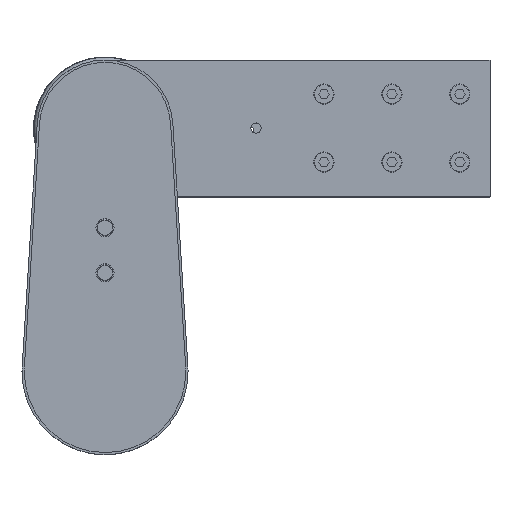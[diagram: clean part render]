
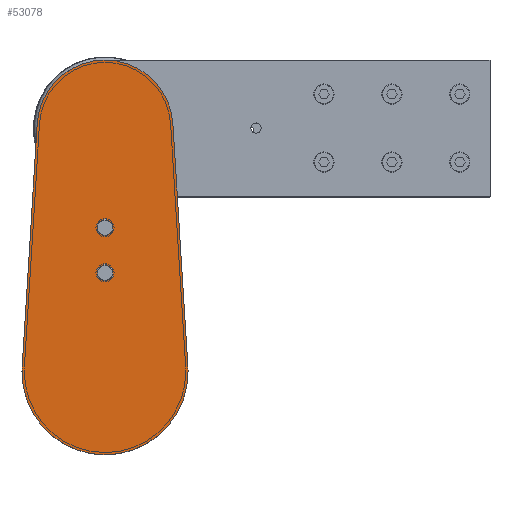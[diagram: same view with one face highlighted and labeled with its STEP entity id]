
A CAD part, top view. The second image highlights one B-rep face of the part: STEP entity #53078.
In plain terms, the highlighted planar face has unit normal (0, 0, 1) as drawn and (0, 0, -1) by its records, which use the part's own axes.
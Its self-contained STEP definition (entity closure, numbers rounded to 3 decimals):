
#3362 = VERTEX_POINT ( 'NONE', #16462 ) ;
#10137 = CARTESIAN_POINT ( 'NONE',  ( -44.914, 164.286, 0. ) ) ;
#10144 = CARTESIAN_POINT ( 'NONE',  ( -55., 0., 0. ) ) ;
#10145 = CARTESIAN_POINT ( 'NONE',  ( 44.914, 164.286, 0. ) ) ;
#10146 = CARTESIAN_POINT ( 'NONE',  ( -54.894, 3.406, 0. ) ) ;
#10191 = CARTESIAN_POINT ( 'NONE',  ( 55., 0., 0. ) ) ;
#10275 = CARTESIAN_POINT ( 'NONE',  ( 54.894, 3.406, 0. ) ) ;
#10293 = CARTESIAN_POINT ( 'NONE',  ( -3.5, 65.5, 0. ) ) ;
#10296 = CARTESIAN_POINT ( 'NONE',  ( 3.5, 65.5, 0. ) ) ;
#10307 = CARTESIAN_POINT ( 'NONE',  ( -3.5, 95.5, 0. ) ) ;
#11837 = CARTESIAN_POINT ( 'NONE',  ( 0., 95.5, 0. ) ) ;
#11838 = DIRECTION ( 'NONE',  ( 0., 0., -1. ) ) ;
#11839 = DIRECTION ( 'NONE',  ( 1., 0., 0. ) ) ;
#11861 = CARTESIAN_POINT ( 'NONE',  ( 44.914, 164.286, 0. ) ) ;
#11865 = CARTESIAN_POINT ( 'NONE',  ( 0., 65.5, 0. ) ) ;
#11866 = DIRECTION ( 'NONE',  ( 0., 0., -1. ) ) ;
#11867 = DIRECTION ( 'NONE',  ( 1., 0., 0. ) ) ;
#11873 = LINE ( 'NONE', #11861, #32136 ) ;
#11878 = DIRECTION ( 'NONE',  ( -0.062, 0.998, 0. ) ) ;
#11882 = CARTESIAN_POINT ( 'NONE',  ( 0., 0., 0. ) ) ;
#11883 = DIRECTION ( 'NONE',  ( 0., 0., 1. ) ) ;
#11884 = DIRECTION ( 'NONE',  ( 1., 0., 0. ) ) ;
#11888 = LINE ( 'NONE', #11889, #32145 ) ;
#11889 = CARTESIAN_POINT ( 'NONE',  ( -44.914, 164.286, 0. ) ) ;
#11890 = DIRECTION ( 'NONE',  ( -0.062, -0.998, 0. ) ) ;
#11911 = CARTESIAN_POINT ( 'NONE',  ( 0., 161.5, 0. ) ) ;
#11912 = DIRECTION ( 'NONE',  ( 0., 0., 1. ) ) ;
#11913 = DIRECTION ( 'NONE',  ( 1., 0., 0. ) ) ;
#11925 = CARTESIAN_POINT ( 'NONE',  ( 0., 0., 0. ) ) ;
#11926 = DIRECTION ( 'NONE',  ( 0., 0., 1. ) ) ;
#11927 = DIRECTION ( 'NONE',  ( 1., 0., 0. ) ) ;
#11984 = CARTESIAN_POINT ( 'NONE',  ( 0., 0., 0. ) ) ;
#11986 = DIRECTION ( 'NONE',  ( 0., 0., 1. ) ) ;
#11988 = DIRECTION ( 'NONE',  ( 1., 0., 0. ) ) ;
#12014 = CARTESIAN_POINT ( 'NONE',  ( 0., 95.5, 0. ) ) ;
#12016 = DIRECTION ( 'NONE',  ( 0., 0., -1. ) ) ;
#12018 = DIRECTION ( 'NONE',  ( 1., 0., 0. ) ) ;
#12085 = CARTESIAN_POINT ( 'NONE',  ( 0., 65.5, 0. ) ) ;
#12087 = DIRECTION ( 'NONE',  ( 0., 0., -1. ) ) ;
#12089 = DIRECTION ( 'NONE',  ( 1., 0., 0. ) ) ;
#15249 = EDGE_LOOP ( 'NONE', ( #54449, #17632 ) ) ;
#15254 = EDGE_LOOP ( 'NONE', ( #17507, #54500, #54501, #54502, #54560, #54561 ) ) ;
#15255 = EDGE_LOOP ( 'NONE', ( #54323, #17620 ) ) ;
#16462 = CARTESIAN_POINT ( 'NONE',  ( 3.5, 95.5, 0. ) ) ;
#16918 = VERTEX_POINT ( 'NONE', #10144 ) ;
#16919 = VERTEX_POINT ( 'NONE', #10137 ) ;
#16920 = VERTEX_POINT ( 'NONE', #10145 ) ;
#16921 = VERTEX_POINT ( 'NONE', #10146 ) ;
#16966 = VERTEX_POINT ( 'NONE', #10191 ) ;
#17050 = VERTEX_POINT ( 'NONE', #10275 ) ;
#17068 = VERTEX_POINT ( 'NONE', #10293 ) ;
#17071 = VERTEX_POINT ( 'NONE', #10296 ) ;
#17082 = VERTEX_POINT ( 'NONE', #10307 ) ;
#17507 = ORIENTED_EDGE ( 'NONE', *, *, #52663, .F. ) ;
#17620 = ORIENTED_EDGE ( 'NONE', *, *, #52648, .F. ) ;
#17632 = ORIENTED_EDGE ( 'NONE', *, *, #52638, .F. ) ;
#32095 = CIRCLE ( 'NONE', #32122, 3.5 ) ;
#32122 = AXIS2_PLACEMENT_3D ( 'NONE', #11837, #11838, #11839 ) ;
#32129 = CIRCLE ( 'NONE', #32135, 3.5 ) ;
#32135 = AXIS2_PLACEMENT_3D ( 'NONE', #11865, #11866, #11867 ) ;
#32136 = VECTOR ( 'NONE', #11878, 1000. ) ;
#32139 = CIRCLE ( 'NONE', #32143, 55. ) ;
#32143 = AXIS2_PLACEMENT_3D ( 'NONE', #11882, #11883, #11884 ) ;
#32145 = VECTOR ( 'NONE', #11890, 1000. ) ;
#32156 = CIRCLE ( 'NONE', #32158, 45. ) ;
#32158 = AXIS2_PLACEMENT_3D ( 'NONE', #11911, #11912, #11913 ) ;
#32159 = CIRCLE ( 'NONE', #32162, 55. ) ;
#32162 = AXIS2_PLACEMENT_3D ( 'NONE', #11925, #11926, #11927 ) ;
#32176 = CIRCLE ( 'NONE', #32178, 55. ) ;
#32178 = AXIS2_PLACEMENT_3D ( 'NONE', #11984, #11986, #11988 ) ;
#32184 = CIRCLE ( 'NONE', #32186, 3.5 ) ;
#32186 = AXIS2_PLACEMENT_3D ( 'NONE', #12014, #12016, #12018 ) ;
#32200 = CIRCLE ( 'NONE', #32202, 3.5 ) ;
#32202 = AXIS2_PLACEMENT_3D ( 'NONE', #12085, #12087, #12089 ) ;
#48115 = AXIS2_PLACEMENT_3D ( 'NONE', #49515, #49509, #49522 ) ;
#49509 = DIRECTION ( 'NONE',  ( 0., 0., 1. ) ) ;
#49515 = CARTESIAN_POINT ( 'NONE',  ( 0., 161.5, 0. ) ) ;
#49516 = FACE_BOUND ( 'NONE', #15249, .T. ) ;
#49518 = FACE_BOUND ( 'NONE', #15255, .T. ) ;
#49519 = FACE_OUTER_BOUND ( 'NONE', #15254, .T. ) ;
#49520 = PLANE ( 'NONE',  #48115 ) ;
#49522 = DIRECTION ( 'NONE',  ( 1., 0., 0. ) ) ;
#52638 = EDGE_CURVE ( 'NONE', #17082, #3362, #32095, .T. ) ;
#52648 = EDGE_CURVE ( 'NONE', #17068, #17071, #32129, .T. ) ;
#52652 = EDGE_CURVE ( 'NONE', #17050, #16920, #11873, .T. ) ;
#52653 = EDGE_CURVE ( 'NONE', #16921, #16918, #32139, .T. ) ;
#52656 = EDGE_CURVE ( 'NONE', #16919, #16921, #11888, .T. ) ;
#52663 = EDGE_CURVE ( 'NONE', #16920, #16919, #32156, .T. ) ;
#52665 = EDGE_CURVE ( 'NONE', #16918, #16966, #32159, .T. ) ;
#52675 = EDGE_CURVE ( 'NONE', #16966, #17050, #32176, .T. ) ;
#52680 = EDGE_CURVE ( 'NONE', #3362, #17082, #32184, .T. ) ;
#52691 = EDGE_CURVE ( 'NONE', #17071, #17068, #32200, .T. ) ;
#53078 = ADVANCED_FACE ( 'NONE', ( #49516, #49518, #49519 ), #49520, .F. ) ;
#54323 = ORIENTED_EDGE ( 'NONE', *, *, #52691, .F. ) ;
#54449 = ORIENTED_EDGE ( 'NONE', *, *, #52680, .F. ) ;
#54500 = ORIENTED_EDGE ( 'NONE', *, *, #52652, .F. ) ;
#54501 = ORIENTED_EDGE ( 'NONE', *, *, #52675, .F. ) ;
#54502 = ORIENTED_EDGE ( 'NONE', *, *, #52665, .F. ) ;
#54560 = ORIENTED_EDGE ( 'NONE', *, *, #52653, .F. ) ;
#54561 = ORIENTED_EDGE ( 'NONE', *, *, #52656, .F. ) ;
